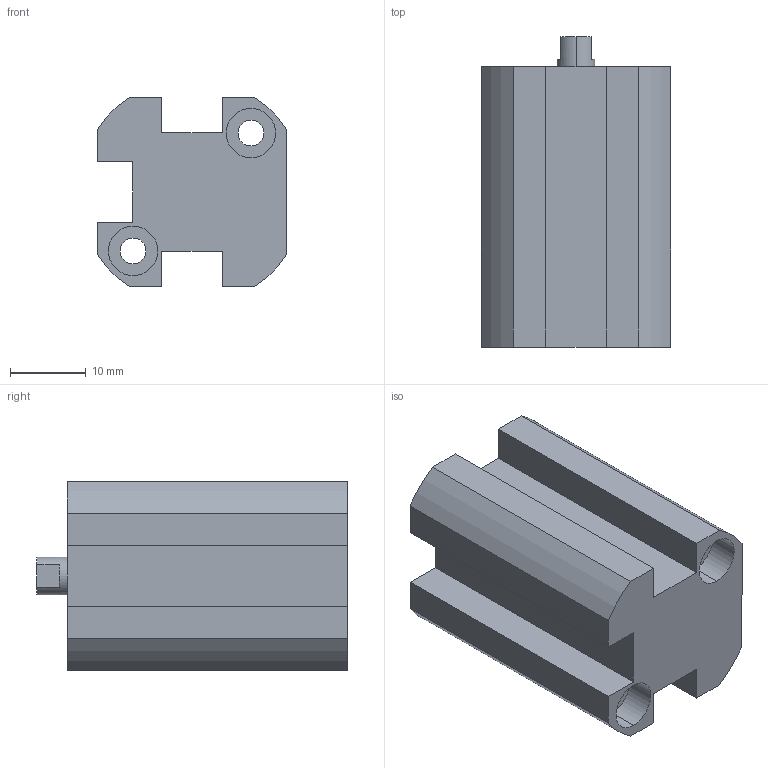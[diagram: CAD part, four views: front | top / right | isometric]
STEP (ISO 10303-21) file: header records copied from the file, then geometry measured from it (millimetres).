
FILE_DESCRIPTION (( 'STEP AP203' ), '1' );
FILE_NAME ('XG#1-10-10.STEP', '2016-05-24T01:38:49', ( '' ), ( '' ), 'SwSTEP 2.0', 'SolidWorks 2014', '' );
FILE_SCHEMA (( 'CONFIG_CONTROL_DESIGN' ));
Length unit declared in the file: millimetre
Products named in the file (1): XG#1-10-10
Bounding box: 25 x 41 x 25 mm (x, y, z)
Volume: 16444.4 mm3; surface area: 6671.2 mm2
Topology: 1 solids, 1 shells, 72 faces, 177 edges, 116 vertices
Faces by surface type: cylinder 37, plane 33, cone 2
Entity records: 2227 total; most frequent: DIRECTION 400, CARTESIAN_POINT 364, ORIENTED_EDGE 350, EDGE_CURVE 175, AXIS2_PLACEMENT_3D 152, VERTEX_POINT 116, VECTOR 96, LINE 96
